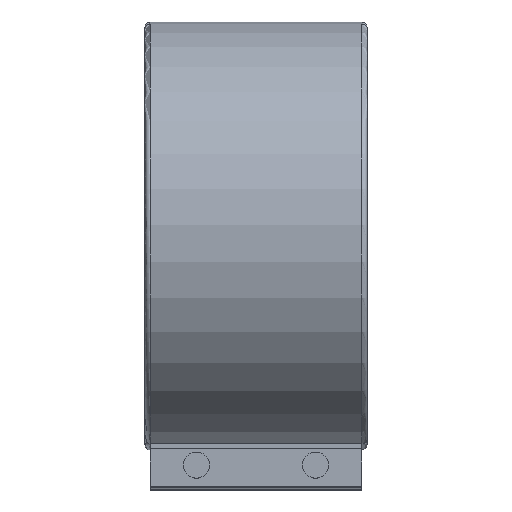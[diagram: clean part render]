
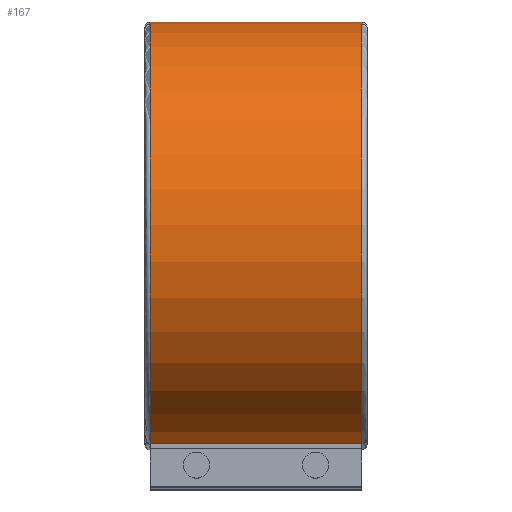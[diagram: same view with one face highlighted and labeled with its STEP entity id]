
A CAD part, top view. The second image highlights one B-rep face of the part: STEP entity #167.
In plain terms, the highlighted cylindrical face has radius 65.5 mm (diameter 131 mm), a partial arc.
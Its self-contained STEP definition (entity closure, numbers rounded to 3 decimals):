
#167 = ADVANCED_FACE( '', ( #442 ), #443, .T. );
#442 = FACE_OUTER_BOUND( '', #855, .T. );
#443 = CYLINDRICAL_SURFACE( '', #856, 65.5 );
#855 = EDGE_LOOP( '', ( #1341, #1342, #1343, #1344 ) );
#856 = AXIS2_PLACEMENT_3D( '', #1345, #1346, #1347 );
#1341 = ORIENTED_EDGE( '', *, *, #2308, .T. );
#1342 = ORIENTED_EDGE( '', *, *, #2309, .T. );
#1343 = ORIENTED_EDGE( '', *, *, #2310, .F. );
#1344 = ORIENTED_EDGE( '', *, *, #2311, .T. );
#1345 = CARTESIAN_POINT( '', ( 34., 0., 0. ) );
#1346 = DIRECTION( '', ( -1., 0., 0. ) );
#1347 = DIRECTION( '', ( 0., 0., -1. ) );
#2308 = EDGE_CURVE( '', #2754, #2755, #2756, .T. );
#2309 = EDGE_CURVE( '', #2755, #2757, #2758, .T. );
#2310 = EDGE_CURVE( '', #2759, #2757, #2760, .T. );
#2311 = EDGE_CURVE( '', #2759, #2754, #2761, .F. );
#2754 = VERTEX_POINT( '', #3401 );
#2755 = VERTEX_POINT( '', #3402 );
#2756 = CIRCLE( '', #3403, 65.5 );
#2757 = VERTEX_POINT( '', #3404 );
#2758 = LINE( '', #3405, #3406 );
#2759 = VERTEX_POINT( '', #3407 );
#2760 = CIRCLE( '', #3408, 65.5 );
#2761 = LINE( '', #3409, #3410 );
#3401 = CARTESIAN_POINT( '', ( -32.428, -63.578, -15.75 ) );
#3402 = CARTESIAN_POINT( '', ( -32.428, -63.578, 15.75 ) );
#3403 = AXIS2_PLACEMENT_3D( '', #4108, #4109, #4110 );
#3404 = CARTESIAN_POINT( '', ( 32.428, -63.578, 15.75 ) );
#3405 = CARTESIAN_POINT( '', ( 34., -63.578, 15.75 ) );
#3406 = VECTOR( '', #4111, 1000. );
#3407 = CARTESIAN_POINT( '', ( 32.428, -63.578, -15.75 ) );
#3408 = AXIS2_PLACEMENT_3D( '', #4112, #4113, #4114 );
#3409 = CARTESIAN_POINT( '', ( 34., -63.578, -15.75 ) );
#3410 = VECTOR( '', #4115, 1000. );
#4108 = CARTESIAN_POINT( '', ( -32.428, 0., 0. ) );
#4109 = DIRECTION( '', ( 1., 0., 0. ) );
#4110 = DIRECTION( '', ( 0., 0., -1. ) );
#4111 = DIRECTION( '', ( 1., 0., 0. ) );
#4112 = CARTESIAN_POINT( '', ( 32.428, 0., 0. ) );
#4113 = DIRECTION( '', ( 1., 0., 0. ) );
#4114 = DIRECTION( '', ( 0., 0., -1. ) );
#4115 = DIRECTION( '', ( 1., 0., 0. ) );
